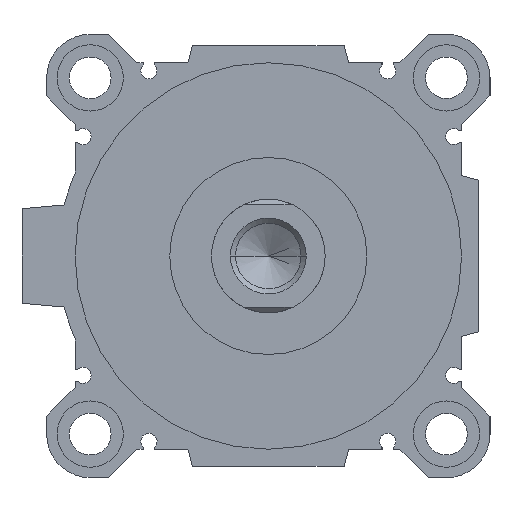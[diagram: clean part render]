
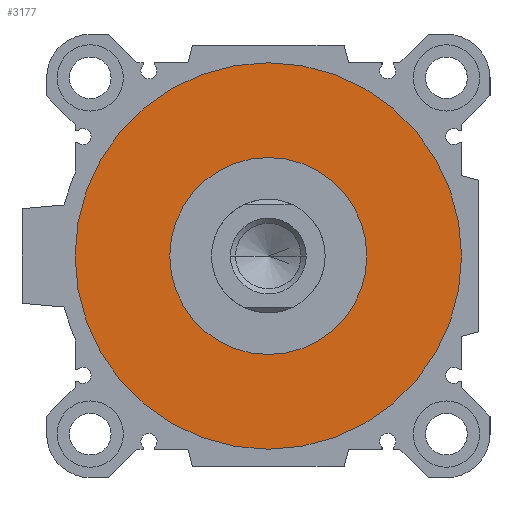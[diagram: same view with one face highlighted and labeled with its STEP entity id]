
A CAD part, left-side view. The second image highlights one B-rep face of the part: STEP entity #3177.
In plain terms, the highlighted planar face has unit normal (-1, 0, 0).
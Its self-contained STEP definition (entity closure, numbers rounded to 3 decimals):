
#169 = AXIS2_PLACEMENT_3D ( 'NONE', #717, #1152, #3234 ) ;
#191 = EDGE_CURVE ( 'NONE', #4508, #2976, #1963, .T. ) ;
#628 = CIRCLE ( 'NONE', #2477, 26. ) ;
#717 = CARTESIAN_POINT ( 'NONE',  ( 6.5, 0., 0. ) ) ;
#817 = EDGE_CURVE ( 'NONE', #2976, #4508, #4943, .T. ) ;
#911 = DIRECTION ( 'NONE',  ( 0., 0., -1. ) ) ;
#971 = ORIENTED_EDGE ( 'NONE', *, *, #4031, .T. ) ;
#1017 = ORIENTED_EDGE ( 'NONE', *, *, #817, .F. ) ;
#1024 = DIRECTION ( 'NONE',  ( 1., 0., 0. ) ) ;
#1152 = DIRECTION ( 'NONE',  ( 1., 0., 0. ) ) ;
#1181 = EDGE_LOOP ( 'NONE', ( #971, #5282 ) ) ;
#1439 = DIRECTION ( 'NONE',  ( 0., 1., 0. ) ) ;
#1827 = CARTESIAN_POINT ( 'NONE',  ( 6.5, 0., 0. ) ) ;
#1892 = CARTESIAN_POINT ( 'NONE',  ( 6.5, 0., -26. ) ) ;
#1963 = CIRCLE ( 'NONE', #2242, 51. ) ;
#1994 = AXIS2_PLACEMENT_3D ( 'NONE', #1827, #1024, #1439 ) ;
#2242 = AXIS2_PLACEMENT_3D ( 'NONE', #4724, #4303, #911 ) ;
#2303 = FACE_OUTER_BOUND ( 'NONE', #3183, .T. ) ;
#2322 = AXIS2_PLACEMENT_3D ( 'NONE', #3037, #4739, #3541 ) ;
#2477 = AXIS2_PLACEMENT_3D ( 'NONE', #3837, #5227, #4286 ) ;
#2826 = CARTESIAN_POINT ( 'NONE',  ( 6.5, 0., 26. ) ) ;
#2976 = VERTEX_POINT ( 'NONE', #4156 ) ;
#3037 = CARTESIAN_POINT ( 'NONE',  ( 6.5, 0., 0. ) ) ;
#3177 = ADVANCED_FACE ( 'NONE', ( #2303, #4001 ), #3579, .F. ) ;
#3183 = EDGE_LOOP ( 'NONE', ( #4835, #1017 ) ) ;
#3234 = DIRECTION ( 'NONE',  ( 0., 0., -1. ) ) ;
#3541 = DIRECTION ( 'NONE',  ( 0., 0., -1. ) ) ;
#3579 = PLANE ( 'NONE',  #1994 ) ;
#3837 = CARTESIAN_POINT ( 'NONE',  ( 6.5, 0., 0. ) ) ;
#4001 = FACE_BOUND ( 'NONE', #1181, .T. ) ;
#4031 = EDGE_CURVE ( 'NONE', #5183, #4965, #4172, .T. ) ;
#4156 = CARTESIAN_POINT ( 'NONE',  ( 6.5, 0., -51. ) ) ;
#4172 = CIRCLE ( 'NONE', #2322, 26. ) ;
#4286 = DIRECTION ( 'NONE',  ( 0., 0., -1. ) ) ;
#4303 = DIRECTION ( 'NONE',  ( 1., 0., 0. ) ) ;
#4420 = EDGE_CURVE ( 'NONE', #4965, #5183, #628, .T. ) ;
#4508 = VERTEX_POINT ( 'NONE', #5428 ) ;
#4724 = CARTESIAN_POINT ( 'NONE',  ( 6.5, 0., 0. ) ) ;
#4739 = DIRECTION ( 'NONE',  ( 1., 0., 0. ) ) ;
#4835 = ORIENTED_EDGE ( 'NONE', *, *, #191, .F. ) ;
#4943 = CIRCLE ( 'NONE', #169, 51. ) ;
#4965 = VERTEX_POINT ( 'NONE', #1892 ) ;
#5183 = VERTEX_POINT ( 'NONE', #2826 ) ;
#5227 = DIRECTION ( 'NONE',  ( 1., 0., 0. ) ) ;
#5282 = ORIENTED_EDGE ( 'NONE', *, *, #4420, .T. ) ;
#5428 = CARTESIAN_POINT ( 'NONE',  ( 6.5, 0., 51. ) ) ;
